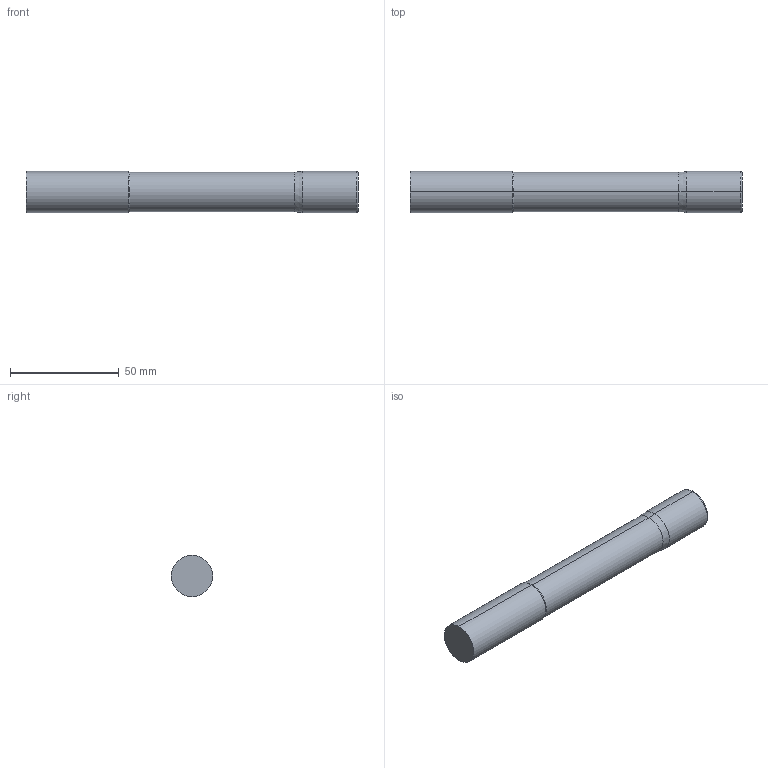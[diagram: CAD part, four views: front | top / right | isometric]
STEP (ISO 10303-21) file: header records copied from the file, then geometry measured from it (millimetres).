
FILE_DESCRIPTION (( 'STEP AP214' ), '1' );
FILE_NAME ('SSIRNX70750-030.STEP', '2025-05-30T15:10:48', ( '' ), ( '' ), 'SwSTEP 2.0', 'SolidWorks 2023', '' );
FILE_SCHEMA (( 'AUTOMOTIVE_DESIGN' ));
Length unit declared in the file: inch
Products named in the file (3): SSI7 Shank Only_SSIRNX70750-030; SSIRNX70750-030; SSI7 Cut Only_SSIRNX70750-030
Assembly tree (2 placements, depth 2):
  SSIRNX70750-030
    SSI7 Cut Only_SSIRNX70750-030
    SSI7 Shank Only_SSIRNX70750-030
Bounding box: 152.4 x 19.05 x 19.05 mm (x, y, z)
Volume: 41404.5 mm3; surface area: 10031.8 mm2
Topology: 2 solids, 2 shells, 16 faces, 28 edges, 16 vertices
Faces by surface type: cylinder 6, plane 4, cone 4, torus 2
Entity records: 484 total; most frequent: DIRECTION 88, CARTESIAN_POINT 65, ORIENTED_EDGE 56, AXIS2_PLACEMENT_3D 39, EDGE_CURVE 28, CIRCLE 18, ADVANCED_FACE 16, EDGE_LOOP 16
